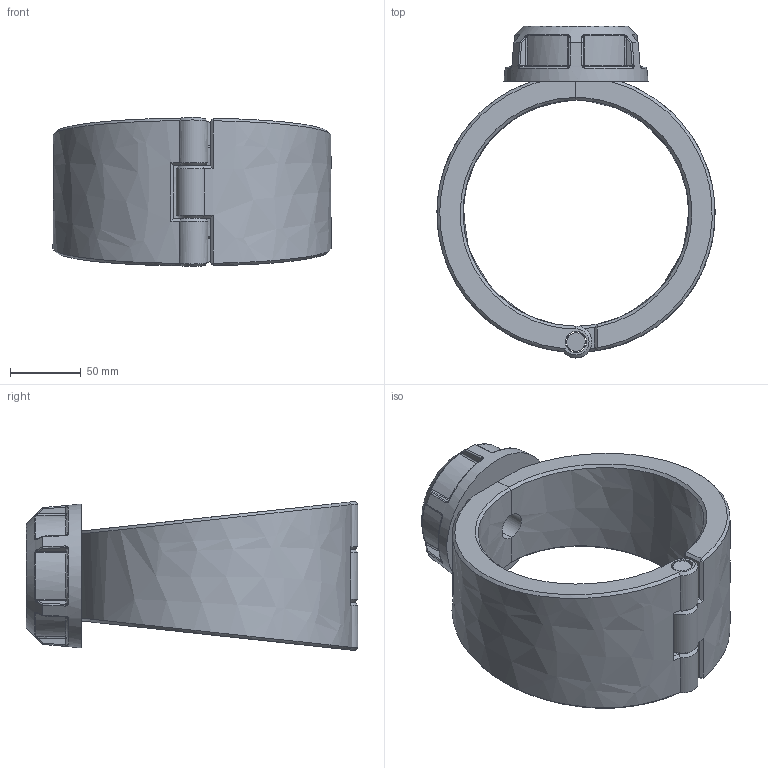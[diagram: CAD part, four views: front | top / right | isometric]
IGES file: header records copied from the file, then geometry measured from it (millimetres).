
Global section: file name: 163000160013; native system: Autodesk Inventor 2019; preprocessor: unknown; author: comp2; date: 20220203.115131; units: millimetre
Bounding box: 196.98 x 235 x 105.57 mm (x, y, z)
Volume: 1048917 mm3; surface area: 156641.8 mm2
Topology: 4 solids, 4 shells, 203 faces, 486 edges, 293 vertices
Faces by surface type: bspline 203
